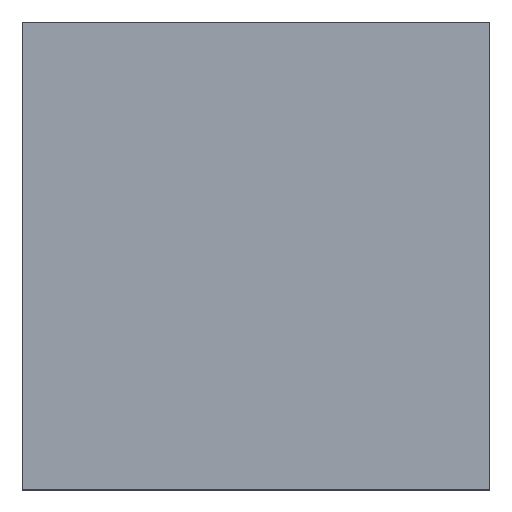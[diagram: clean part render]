
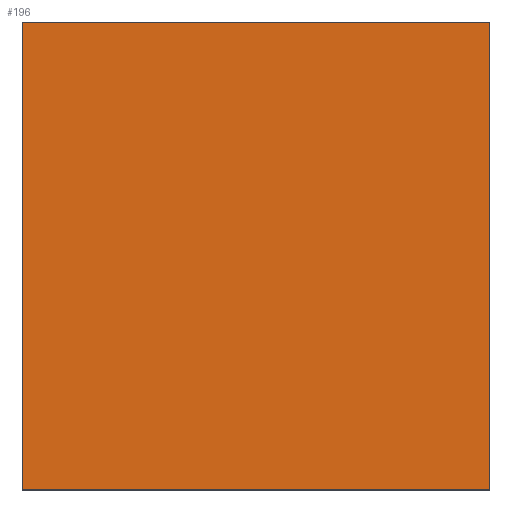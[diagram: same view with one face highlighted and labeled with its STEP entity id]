
A CAD part, top view. The second image highlights one B-rep face of the part: STEP entity #196.
In plain terms, the highlighted planar face has unit normal (0, 0, 1).
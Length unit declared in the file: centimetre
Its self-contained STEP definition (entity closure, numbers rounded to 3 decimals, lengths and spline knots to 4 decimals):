
#17 = DIRECTION ( 'NONE',  ( -1., 0., 0. ) ) ;
#23 = VECTOR ( 'NONE', #226, 100. ) ;
#45 = ORIENTED_EDGE ( 'NONE', *, *, #210, .T. ) ;
#69 = DIRECTION ( 'NONE',  ( 0., 1., 0. ) ) ;
#74 = LINE ( 'NONE', #149, #880 ) ;
#77 = DIRECTION ( 'NONE',  ( 0., 0., 1. ) ) ;
#85 = ORIENTED_EDGE ( 'NONE', *, *, #1014, .T. ) ;
#95 = CARTESIAN_POINT ( 'NONE',  ( 0., 1000., 1000. ) ) ;
#107 = ORIENTED_EDGE ( 'NONE', *, *, #938, .T. ) ;
#128 = AXIS2_PLACEMENT_3D ( 'NONE', #546, #77, #303 ) ;
#149 = CARTESIAN_POINT ( 'NONE',  ( 1000., 1000., 1000. ) ) ;
#157 = VECTOR ( 'NONE', #17, 100. ) ;
#189 = VECTOR ( 'NONE', #943, 100. ) ;
#196 = ADVANCED_FACE ( 'NONE', ( #709 ), #1019, .T. ) ;
#210 = EDGE_CURVE ( 'NONE', #319, #782, #785, .T. ) ;
#226 = DIRECTION ( 'NONE',  ( 1., 0., 0. ) ) ;
#303 = DIRECTION ( 'NONE',  ( 1., 0., 0. ) ) ;
#305 = CARTESIAN_POINT ( 'NONE',  ( 0., 0., 1000. ) ) ;
#319 = VERTEX_POINT ( 'NONE', #381 ) ;
#381 = CARTESIAN_POINT ( 'NONE',  ( 0., 1000., 1000. ) ) ;
#394 = CARTESIAN_POINT ( 'NONE',  ( 1000., 1000., 1000. ) ) ;
#442 = CARTESIAN_POINT ( 'NONE',  ( 0., 0., 1000. ) ) ;
#485 = LINE ( 'NONE', #305, #23 ) ;
#492 = EDGE_LOOP ( 'NONE', ( #45, #107, #753, #85 ) ) ;
#546 = CARTESIAN_POINT ( 'NONE',  ( 0., 0., 1000. ) ) ;
#585 = VERTEX_POINT ( 'NONE', #394 ) ;
#594 = VERTEX_POINT ( 'NONE', #711 ) ;
#709 = FACE_OUTER_BOUND ( 'NONE', #492, .T. ) ;
#711 = CARTESIAN_POINT ( 'NONE',  ( 1000., 0., 1000. ) ) ;
#725 = LINE ( 'NONE', #95, #157 ) ;
#753 = ORIENTED_EDGE ( 'NONE', *, *, #953, .T. ) ;
#782 = VERTEX_POINT ( 'NONE', #442 ) ;
#785 = LINE ( 'NONE', #870, #189 ) ;
#870 = CARTESIAN_POINT ( 'NONE',  ( 0., 1000., 1000. ) ) ;
#880 = VECTOR ( 'NONE', #69, 100. ) ;
#938 = EDGE_CURVE ( 'NONE', #782, #594, #485, .T. ) ;
#943 = DIRECTION ( 'NONE',  ( 0., -1., 0. ) ) ;
#953 = EDGE_CURVE ( 'NONE', #594, #585, #74, .T. ) ;
#1014 = EDGE_CURVE ( 'NONE', #585, #319, #725, .T. ) ;
#1019 = PLANE ( 'NONE',  #128 ) ;
